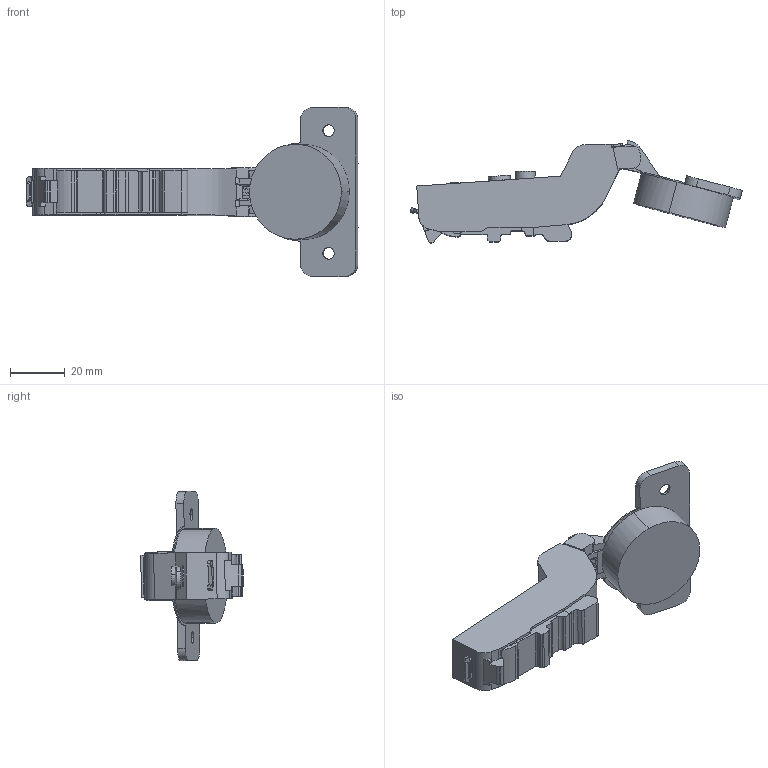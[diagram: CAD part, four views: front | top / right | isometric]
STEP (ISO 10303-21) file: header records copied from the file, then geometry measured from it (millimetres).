
FILE_DESCRIPTION (( 'STEP AP203' ), '1' );
FILE_NAME ('C81C875FAB DTC 3D OPEN.STEP', '2024-07-26T01:15:50', ( '微软用户' ), ( '微软中国' ), 'SwSTEP 2.0', 'SolidWorks 2021', '' );
FILE_SCHEMA (( 'CONFIG_CONTROL_DESIGN' ));
Length unit declared in the file: millimetre
Products named in the file (1): C81C875FAB DTC 3D OPEN
Bounding box: 121.69 x 37.5 x 62.05 mm (x, y, z)
Volume: 42669.2 mm3; surface area: 12751.6 mm2
Topology: 1 solids, 2 shells, 402 faces, 1146 edges, 757 vertices
Faces by surface type: plane 206, cylinder 150, torus 24, bspline 16, cone 6
Entity records: 13683 total; most frequent: CARTESIAN_POINT 3248, ORIENTED_EDGE 2292, DIRECTION 2089, EDGE_CURVE 1146, VERTEX_POINT 757, AXIS2_PLACEMENT_3D 724, VECTOR 641, LINE 641
